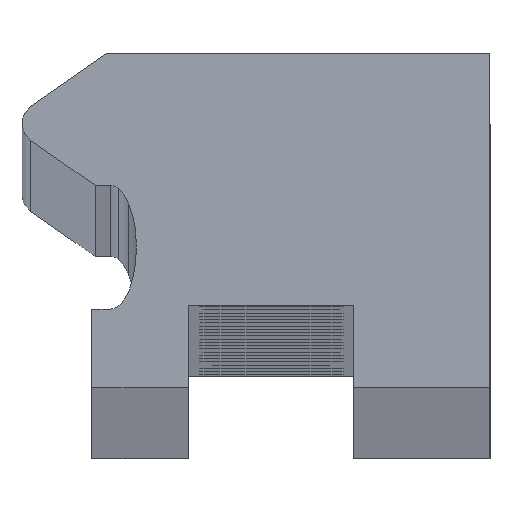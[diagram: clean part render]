
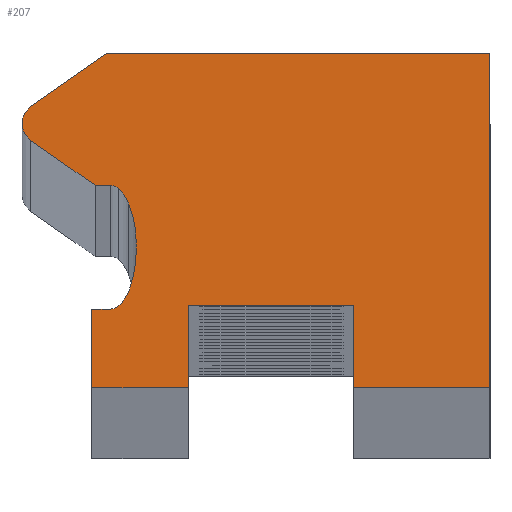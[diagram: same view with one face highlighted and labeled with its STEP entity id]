
A CAD part, top view. The second image highlights one B-rep face of the part: STEP entity #207.
In plain terms, the highlighted planar face has unit normal (0, 0, 1).
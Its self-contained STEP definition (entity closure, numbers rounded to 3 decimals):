
#207=ADVANCED_FACE('',(#539),#540,.F.);
#539=FACE_OUTER_BOUND('',#871,.T.);
#540=PLANE('',#872);
#871=EDGE_LOOP('',(#1902,#1903,#1904,#1905,#1906,#1907,#1908,#1909,#1910,#1911,#1912,#1913,#1914,#1915,#1916,#1917,#1918,#1919,#1920,#1921,#1922));
#872=AXIS2_PLACEMENT_3D('',#1923,#1924,#1925);
#1902=ORIENTED_EDGE('',*,*,#2252,.F.);
#1903=ORIENTED_EDGE('',*,*,#2199,.F.);
#1904=ORIENTED_EDGE('',*,*,#1931,.F.);
#1905=ORIENTED_EDGE('',*,*,#2203,.F.);
#1906=ORIENTED_EDGE('',*,*,#2206,.F.);
#1907=ORIENTED_EDGE('',*,*,#2209,.T.);
#1908=ORIENTED_EDGE('',*,*,#2212,.T.);
#1909=ORIENTED_EDGE('',*,*,#2215,.T.);
#1910=ORIENTED_EDGE('',*,*,#2218,.T.);
#1911=ORIENTED_EDGE('',*,*,#2219,.T.);
#1912=ORIENTED_EDGE('',*,*,#1929,.T.);
#1913=ORIENTED_EDGE('',*,*,#2223,.T.);
#1914=ORIENTED_EDGE('',*,*,#2226,.T.);
#1915=ORIENTED_EDGE('',*,*,#2229,.T.);
#1916=ORIENTED_EDGE('',*,*,#2232,.F.);
#1917=ORIENTED_EDGE('',*,*,#2235,.F.);
#1918=ORIENTED_EDGE('',*,*,#2238,.F.);
#1919=ORIENTED_EDGE('',*,*,#2241,.F.);
#1920=ORIENTED_EDGE('',*,*,#2244,.F.);
#1921=ORIENTED_EDGE('',*,*,#2247,.F.);
#1922=ORIENTED_EDGE('',*,*,#2250,.F.);
#1923=CARTESIAN_POINT('',(0.086,4.004,986.0));
#1924=DIRECTION('',(0.,0.0,-1.0));
#1925=DIRECTION('',(-1.0,0.0,0.));
#1929=EDGE_CURVE('',#2254,#2258,#2260,.T.);
#1931=EDGE_CURVE('',#2261,#2264,#2265,.T.);
#2199=EDGE_CURVE('',#2264,#2711,#2712,.T.);
#2203=EDGE_CURVE('',#2716,#2261,#2718,.T.);
#2206=EDGE_CURVE('',#2721,#2716,#2723,.T.);
#2209=EDGE_CURVE('',#2721,#2726,#2728,.T.);
#2212=EDGE_CURVE('',#2726,#2731,#2733,.T.);
#2215=EDGE_CURVE('',#2731,#2736,#2738,.T.);
#2218=EDGE_CURVE('',#2736,#2741,#2743,.T.);
#2219=EDGE_CURVE('',#2741,#2254,#2744,.T.);
#2223=EDGE_CURVE('',#2258,#2748,#2750,.T.);
#2226=EDGE_CURVE('',#2748,#2753,#2755,.T.);
#2229=EDGE_CURVE('',#2753,#2758,#2760,.T.);
#2232=EDGE_CURVE('',#2763,#2758,#2765,.T.);
#2235=EDGE_CURVE('',#2768,#2763,#2770,.T.);
#2238=EDGE_CURVE('',#2773,#2768,#2775,.T.);
#2241=EDGE_CURVE('',#2778,#2773,#2780,.T.);
#2244=EDGE_CURVE('',#2783,#2778,#2785,.T.);
#2247=EDGE_CURVE('',#2788,#2783,#2790,.T.);
#2250=EDGE_CURVE('',#2793,#2788,#2795,.T.);
#2252=EDGE_CURVE('',#2711,#2793,#2797,.T.);
#2254=VERTEX_POINT('',#2799);
#2258=VERTEX_POINT('',#2804);
#2260=CIRCLE('',#2807,3.087);
#2261=VERTEX_POINT('',#2808);
#2264=VERTEX_POINT('',#2812);
#2265=CIRCLE('',#2813,0.5);
#2711=VERTEX_POINT('',#3349);
#2712=LINE('',#3350,#3351);
#2716=VERTEX_POINT('',#3356);
#2718=CIRCLE('',#3359,0.5);
#2721=VERTEX_POINT('',#3363);
#2723=LINE('',#3366,#3367);
#2726=VERTEX_POINT('',#3371);
#2728=LINE('',#3374,#3375);
#2731=VERTEX_POINT('',#3378);
#2733=CIRCLE('',#3381,0.325);
#2736=VERTEX_POINT('',#3384);
#2738=CIRCLE('',#3387,0.836);
#2741=VERTEX_POINT('',#3390);
#2743=CIRCLE('',#3393,2.591);
#2744=CIRCLE('',#3394,3.087);
#2748=VERTEX_POINT('',#3398);
#2750=CIRCLE('',#3401,1.123);
#2753=VERTEX_POINT('',#3404);
#2755=CIRCLE('',#3407,0.345);
#2758=VERTEX_POINT('',#3411);
#2760=LINE('',#3414,#3415);
#2763=VERTEX_POINT('',#3419);
#2765=LINE('',#3422,#3423);
#2768=VERTEX_POINT('',#3427);
#2770=LINE('',#3430,#3431);
#2773=VERTEX_POINT('',#3435);
#2775=LINE('',#3438,#3439);
#2778=VERTEX_POINT('',#3443);
#2780=LINE('',#3446,#3447);
#2783=VERTEX_POINT('',#3451);
#2785=LINE('',#3454,#3455);
#2788=VERTEX_POINT('',#3459);
#2790=LINE('',#3462,#3463);
#2793=VERTEX_POINT('',#3467);
#2795=LINE('',#3470,#3471);
#2797=LINE('',#3474,#3475);
#2799=CARTESIAN_POINT('',(-3.268,3.383,986.0));
#2804=CARTESIAN_POINT('',(-3.416,2.44,986.0));
#2807=AXIS2_PLACEMENT_3D('',#3481,#3482,#3483);
#2808=CARTESIAN_POINT('',(-6.038,6.4,986.0));
#2812=CARTESIAN_POINT('',(-5.825,6.81,986.0));
#2813=AXIS2_PLACEMENT_3D('',#3485,#3486,#3487);
#3349=CARTESIAN_POINT('',(-3.982,8.1,986.0));
#3350=CARTESIAN_POINT('',(-5.825,6.81,986.0));
#3351=VECTOR('',#4109,1.0);
#3356=CARTESIAN_POINT('',(-5.825,5.99,986.0));
#3359=AXIS2_PLACEMENT_3D('',#4115,#4116,#4117);
#3363=CARTESIAN_POINT('',(-4.268,4.9,986.0));
#3366=CARTESIAN_POINT('',(-4.268,4.9,986.0));
#3367=VECTOR('',#4120,1.0);
#3371=CARTESIAN_POINT('',(-3.9,4.9,986.0));
#3374=CARTESIAN_POINT('',(-4.268,4.9,986.0));
#3375=VECTOR('',#4123,1.0);
#3378=CARTESIAN_POINT('',(-3.706,4.827,986.0));
#3381=AXIS2_PLACEMENT_3D('',#4128,#4129,#4130);
#3384=CARTESIAN_POINT('',(-3.449,4.446,986.0));
#3387=AXIS2_PLACEMENT_3D('',#4135,#4136,#4137);
#3390=CARTESIAN_POINT('',(-3.274,3.574,986.0));
#3393=AXIS2_PLACEMENT_3D('',#4142,#4143,#4144);
#3394=AXIS2_PLACEMENT_3D('',#4145,#4146,#4147);
#3398=CARTESIAN_POINT('',(-3.653,2.02,986.0));
#3401=AXIS2_PLACEMENT_3D('',#4155,#4156,#4157);
#3404=CARTESIAN_POINT('',(-3.9,1.9,986.0));
#3407=AXIS2_PLACEMENT_3D('',#4162,#4163,#4164);
#3411=CARTESIAN_POINT('',(-4.35,1.9,986.0));
#3414=CARTESIAN_POINT('',(-3.9,1.9,986.0));
#3415=VECTOR('',#4167,1.0);
#3419=CARTESIAN_POINT('',(-4.35,0.0,986.0));
#3422=CARTESIAN_POINT('',(-4.35,0.0,986.0));
#3423=VECTOR('',#4170,1.0);
#3427=CARTESIAN_POINT('',(-2.,0.0,986.0));
#3430=CARTESIAN_POINT('',(-2.,0.0,986.0));
#3431=VECTOR('',#4173,1.0);
#3435=CARTESIAN_POINT('',(-2.,2.0,986.0));
#3438=CARTESIAN_POINT('',(-2.,2.0,986.0));
#3439=VECTOR('',#4176,1.0);
#3443=CARTESIAN_POINT('',(2.,2.0,986.0));
#3446=CARTESIAN_POINT('',(2.,2.0,986.0));
#3447=VECTOR('',#4179,1.0);
#3451=CARTESIAN_POINT('',(2.,0.0,986.0));
#3454=CARTESIAN_POINT('',(2.,0.0,986.0));
#3455=VECTOR('',#4182,1.0);
#3459=CARTESIAN_POINT('',(5.3,0.0,986.0));
#3462=CARTESIAN_POINT('',(5.3,0.0,986.0));
#3463=VECTOR('',#4185,1.0);
#3467=CARTESIAN_POINT('',(5.3,8.1,986.0));
#3470=CARTESIAN_POINT('',(5.3,8.1,986.0));
#3471=VECTOR('',#4188,1.0);
#3474=CARTESIAN_POINT('',(-3.982,8.1,986.0));
#3475=VECTOR('',#4190,1.0);
#3481=CARTESIAN_POINT('',(-6.355,3.383,986.0));
#3482=DIRECTION('',(0.,0.0,-1.0));
#3483=DIRECTION('',(-1.0,0.0,0.));
#3485=CARTESIAN_POINT('',(-5.538,6.4,986.0));
#3486=DIRECTION('',(0.,0.0,-1.0));
#3487=DIRECTION('',(-1.0,0.0,0.));
#4109=DIRECTION('',(0.819,0.574,0.));
#4115=CARTESIAN_POINT('',(-5.538,6.4,986.0));
#4116=DIRECTION('',(0.,0.0,-1.0));
#4117=DIRECTION('',(-1.0,0.0,0.));
#4120=DIRECTION('',(-0.819,0.574,0.));
#4123=DIRECTION('',(1.0,0.0,0.));
#4128=CARTESIAN_POINT('',(-3.911,4.576,986.0));
#4129=DIRECTION('',(0.,0.0,-1.0));
#4130=DIRECTION('',(-1.0,0.0,0.));
#4135=CARTESIAN_POINT('',(-4.244,4.186,986.0));
#4136=DIRECTION('',(0.,0.0,-1.0));
#4137=DIRECTION('',(-1.0,0.0,0.));
#4142=CARTESIAN_POINT('',(-5.864,3.51,986.0));
#4143=DIRECTION('',(0.,0.0,-1.0));
#4144=DIRECTION('',(-1.0,0.0,0.));
#4145=CARTESIAN_POINT('',(-6.355,3.383,986.0));
#4146=DIRECTION('',(0.,0.0,-1.0));
#4147=DIRECTION('',(-1.0,0.0,0.));
#4155=CARTESIAN_POINT('',(-4.489,2.769,986.0));
#4156=DIRECTION('',(0.,0.0,-1.0));
#4157=DIRECTION('',(-1.0,0.0,0.));
#4162=CARTESIAN_POINT('',(-3.915,2.245,986.0));
#4163=DIRECTION('',(0.,0.0,-1.0));
#4164=DIRECTION('',(-1.0,0.0,0.));
#4167=DIRECTION('',(-1.0,0.0,0.));
#4170=DIRECTION('',(0.0,1.0,0.0));
#4173=DIRECTION('',(-1.0,0.0,0.));
#4176=DIRECTION('',(0.0,-1.0,-0.0));
#4179=DIRECTION('',(-1.0,0.0,0.));
#4182=DIRECTION('',(0.0,1.0,0.0));
#4185=DIRECTION('',(-1.0,0.0,0.));
#4188=DIRECTION('',(0.0,-1.0,-0.0));
#4190=DIRECTION('',(1.0,0.0,0.));
